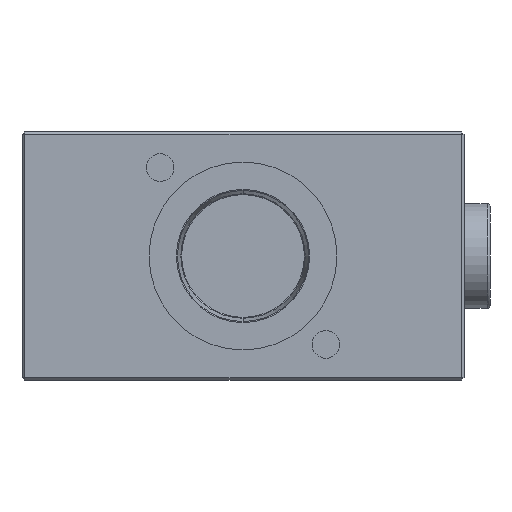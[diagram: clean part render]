
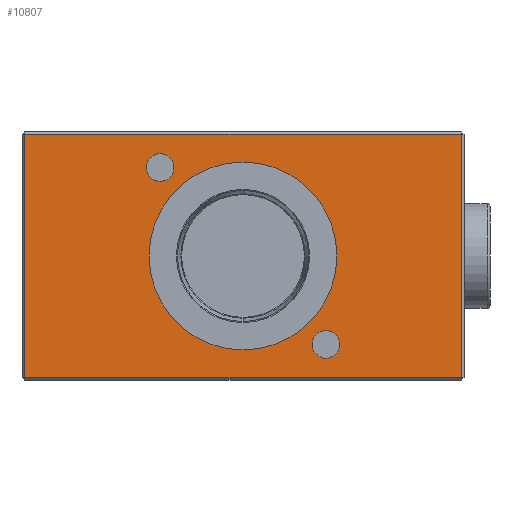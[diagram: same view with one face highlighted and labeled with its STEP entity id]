
A CAD part, left-side view. The second image highlights one B-rep face of the part: STEP entity #10807.
In plain terms, the highlighted planar face has unit normal (-1, 0, 0).
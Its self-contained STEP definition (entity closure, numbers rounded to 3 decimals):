
#332 = EDGE_CURVE ( 'NONE', #11362, #6617, #14420, .T. ) ;
#517 = LINE ( 'NONE', #5991, #13509 ) ;
#588 = CARTESIAN_POINT ( 'NONE',  ( 0., 40., -22.5 ) ) ;
#657 = DIRECTION ( 'NONE',  ( 0., 0., 1. ) ) ;
#675 = VECTOR ( 'NONE', #1124, 1000. ) ;
#727 = EDGE_LOOP ( 'NONE', ( #13939, #3698, #5200, #9564 ) ) ;
#742 = EDGE_CURVE ( 'NONE', #9377, #10370, #1425, .T. ) ;
#1026 = CARTESIAN_POINT ( 'NONE',  ( 0., 15., 13.5 ) ) ;
#1124 = DIRECTION ( 'NONE',  ( 0., 1., 0. ) ) ;
#1180 = CARTESIAN_POINT ( 'NONE',  ( 0., 0., 0. ) ) ;
#1425 = LINE ( 'NONE', #2004, #4347 ) ;
#1609 = FACE_BOUND ( 'NONE', #9121, .T. ) ;
#1713 = EDGE_CURVE ( 'NONE', #6972, #9377, #8191, .T. ) ;
#1859 = DIRECTION ( 'NONE',  ( 0., 0., 1. ) ) ;
#1949 = VERTEX_POINT ( 'NONE', #13718 ) ;
#2004 = CARTESIAN_POINT ( 'NONE',  ( 0., -40., -22. ) ) ;
#2381 = CARTESIAN_POINT ( 'NONE',  ( 0., 40., 22. ) ) ;
#2432 = DIRECTION ( 'NONE',  ( 0., 0., 1. ) ) ;
#2570 = AXIS2_PLACEMENT_3D ( 'NONE', #2893, #11722, #4162 ) ;
#2783 = DIRECTION ( 'NONE',  ( -1., 0., 0. ) ) ;
#2796 = AXIS2_PLACEMENT_3D ( 'NONE', #6582, #15379, #7828 ) ;
#2893 = CARTESIAN_POINT ( 'NONE',  ( 0., 15., 16. ) ) ;
#3617 = CIRCLE ( 'NONE', #2796, 2.5 ) ;
#3698 = ORIENTED_EDGE ( 'NONE', *, *, #12859, .T. ) ;
#4162 = DIRECTION ( 'NONE',  ( 0., 0., 1. ) ) ;
#4330 = CARTESIAN_POINT ( 'NONE',  ( 0., 39.5, -22. ) ) ;
#4334 = CARTESIAN_POINT ( 'NONE',  ( 0., 0., 17. ) ) ;
#4347 = VECTOR ( 'NONE', #12181, 1000. ) ;
#4442 = VERTEX_POINT ( 'NONE', #8105 ) ;
#4914 = FACE_OUTER_BOUND ( 'NONE', #727, .T. ) ;
#5003 = ORIENTED_EDGE ( 'NONE', *, *, #8742, .F. ) ;
#5052 = AXIS2_PLACEMENT_3D ( 'NONE', #1180, #9952, #2432 ) ;
#5053 = EDGE_CURVE ( 'NONE', #6275, #6972, #6952, .T. ) ;
#5141 = CARTESIAN_POINT ( 'NONE',  ( 0., -15., -13.5 ) ) ;
#5200 = ORIENTED_EDGE ( 'NONE', *, *, #5053, .T. ) ;
#5342 = AXIS2_PLACEMENT_3D ( 'NONE', #10328, #2783, #11612 ) ;
#5455 = EDGE_LOOP ( 'NONE', ( #5003, #6634 ) ) ;
#5604 = EDGE_CURVE ( 'NONE', #6617, #11362, #13437, .T. ) ;
#5991 = CARTESIAN_POINT ( 'NONE',  ( 0., -39.5, 22.5 ) ) ;
#6275 = VERTEX_POINT ( 'NONE', #11438 ) ;
#6484 = CARTESIAN_POINT ( 'NONE',  ( 0., 39.5, 22. ) ) ;
#6582 = CARTESIAN_POINT ( 'NONE',  ( 0., -15., -16. ) ) ;
#6617 = VERTEX_POINT ( 'NONE', #12471 ) ;
#6634 = ORIENTED_EDGE ( 'NONE', *, *, #8473, .F. ) ;
#6755 = CARTESIAN_POINT ( 'NONE',  ( 0., 0., 0. ) ) ;
#6936 = CIRCLE ( 'NONE', #9221, 2.5 ) ;
#6952 = LINE ( 'NONE', #2381, #675 ) ;
#6966 = CIRCLE ( 'NONE', #5342, 2.5 ) ;
#6972 = VERTEX_POINT ( 'NONE', #6484 ) ;
#7032 = EDGE_CURVE ( 'NONE', #14556, #1949, #12846, .T. ) ;
#7074 = DIRECTION ( 'NONE',  ( -1., 0., 0. ) ) ;
#7828 = DIRECTION ( 'NONE',  ( 0., 0., 1. ) ) ;
#7867 = FACE_BOUND ( 'NONE', #14347, .T. ) ;
#8105 = CARTESIAN_POINT ( 'NONE',  ( 0., -15., -18.5 ) ) ;
#8191 = LINE ( 'NONE', #13170, #14899 ) ;
#8473 = EDGE_CURVE ( 'NONE', #4442, #12439, #3617, .T. ) ;
#8742 = EDGE_CURVE ( 'NONE', #12439, #4442, #6936, .T. ) ;
#8919 = ORIENTED_EDGE ( 'NONE', *, *, #5604, .F. ) ;
#9121 = EDGE_LOOP ( 'NONE', ( #16209, #16266 ) ) ;
#9221 = AXIS2_PLACEMENT_3D ( 'NONE', #14610, #7074, #15866 ) ;
#9264 = DIRECTION ( 'NONE',  ( -1., 0., 0. ) ) ;
#9350 = DIRECTION ( 'NONE',  ( -1., 0., 0. ) ) ;
#9377 = VERTEX_POINT ( 'NONE', #4330 ) ;
#9564 = ORIENTED_EDGE ( 'NONE', *, *, #1713, .T. ) ;
#9952 = DIRECTION ( 'NONE',  ( -1., 0., 0. ) ) ;
#10328 = CARTESIAN_POINT ( 'NONE',  ( 0., 15., 16. ) ) ;
#10370 = VERTEX_POINT ( 'NONE', #14386 ) ;
#10563 = PLANE ( 'NONE',  #12608 ) ;
#10807 = ADVANCED_FACE ( 'NONE', ( #4914, #1609, #14562, #7867 ), #10563, .T. ) ;
#11072 = DIRECTION ( 'NONE',  ( 0., 0., 1. ) ) ;
#11165 = ORIENTED_EDGE ( 'NONE', *, *, #332, .F. ) ;
#11362 = VERTEX_POINT ( 'NONE', #4334 ) ;
#11438 = CARTESIAN_POINT ( 'NONE',  ( 0., -39.5, 22. ) ) ;
#11612 = DIRECTION ( 'NONE',  ( 0., 0., 1. ) ) ;
#11722 = DIRECTION ( 'NONE',  ( -1., 0., 0. ) ) ;
#12181 = DIRECTION ( 'NONE',  ( 0., -1., 0. ) ) ;
#12439 = VERTEX_POINT ( 'NONE', #5141 ) ;
#12471 = CARTESIAN_POINT ( 'NONE',  ( 0., 0., -17. ) ) ;
#12608 = AXIS2_PLACEMENT_3D ( 'NONE', #588, #9350, #1859 ) ;
#12846 = CIRCLE ( 'NONE', #2570, 2.5 ) ;
#12859 = EDGE_CURVE ( 'NONE', #10370, #6275, #517, .T. ) ;
#12967 = DIRECTION ( 'NONE',  ( 0., 0., -1. ) ) ;
#13170 = CARTESIAN_POINT ( 'NONE',  ( 0., 39.5, -22.5 ) ) ;
#13437 = CIRCLE ( 'NONE', #5052, 17. ) ;
#13509 = VECTOR ( 'NONE', #11072, 1000. ) ;
#13718 = CARTESIAN_POINT ( 'NONE',  ( 0., 15., 18.5 ) ) ;
#13828 = EDGE_CURVE ( 'NONE', #1949, #14556, #6966, .T. ) ;
#13939 = ORIENTED_EDGE ( 'NONE', *, *, #742, .T. ) ;
#14347 = EDGE_LOOP ( 'NONE', ( #11165, #8919 ) ) ;
#14386 = CARTESIAN_POINT ( 'NONE',  ( 0., -39.5, -22. ) ) ;
#14420 = CIRCLE ( 'NONE', #15266, 17. ) ;
#14556 = VERTEX_POINT ( 'NONE', #1026 ) ;
#14562 = FACE_BOUND ( 'NONE', #5455, .T. ) ;
#14610 = CARTESIAN_POINT ( 'NONE',  ( 0., -15., -16. ) ) ;
#14899 = VECTOR ( 'NONE', #12967, 1000. ) ;
#15266 = AXIS2_PLACEMENT_3D ( 'NONE', #6755, #9264, #657 ) ;
#15379 = DIRECTION ( 'NONE',  ( -1., 0., 0. ) ) ;
#15866 = DIRECTION ( 'NONE',  ( 0., 0., 1. ) ) ;
#16209 = ORIENTED_EDGE ( 'NONE', *, *, #13828, .F. ) ;
#16266 = ORIENTED_EDGE ( 'NONE', *, *, #7032, .F. ) ;
